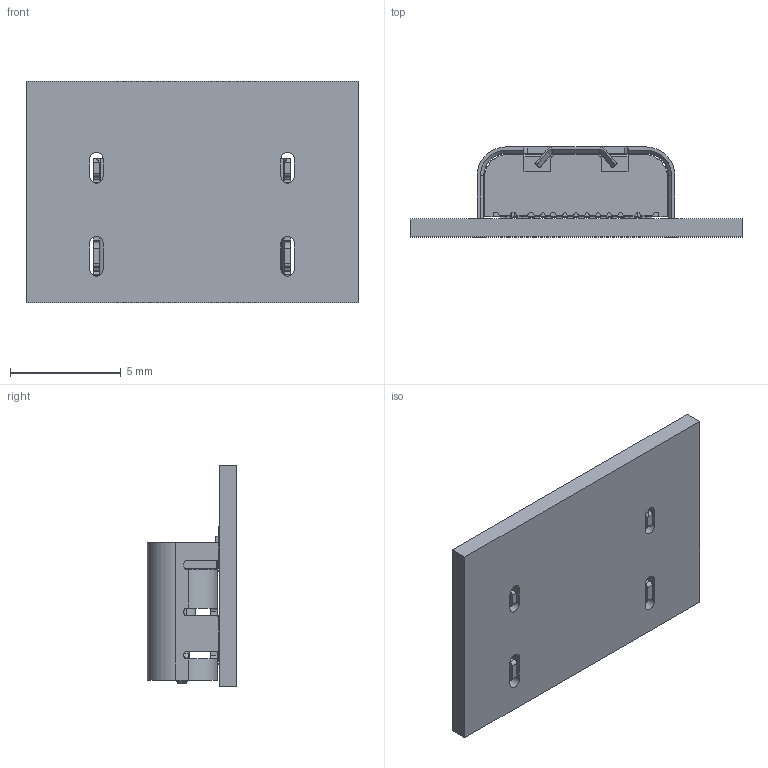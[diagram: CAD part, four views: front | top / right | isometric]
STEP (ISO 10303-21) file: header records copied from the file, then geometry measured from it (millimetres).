
FILE_DESCRIPTION (( 'STEP AP203' ), '1' );
FILE_NAME ('16p啣奻寞跡6.20.STEP', '2023-08-02T01:04:05', ( 'User' ), ( 'China' ), 'SwSTEP 2.0', 'SolidWorks 2014', '' );
FILE_SCHEMA (( 'CONFIG_CONTROL_DESIGN' ));
Length unit declared in the file: millimetre
Products named in the file (5): pcba; 錨璃3^16p啣奻寞跡6.20; 16p啣奻寞跡6.20
Assembly tree (2 placements, depth 2):
  pcba
  錨璃3^16p啣奻寞跡6.20
  16p啣奻寞跡6.20
    pcba
    錨璃3^16p啣奻寞跡6.20
Bounding box: 15 x 4.06 x 10 mm (x, y, z)
Volume: 212.9 mm3; surface area: 766 mm2
Topology: 2 solids, 2 shells, 852 faces, 2423 edges, 1584 vertices
Faces by surface type: plane 596, cylinder 228, bspline 16, cone 12
Entity records: 28275 total; most frequent: CARTESIAN_POINT 5608, ORIENTED_EDGE 4846, DIRECTION 4419, EDGE_CURVE 2423, LINE 1879, VECTOR 1879, VERTEX_POINT 1584, AXIS2_PLACEMENT_3D 1270
